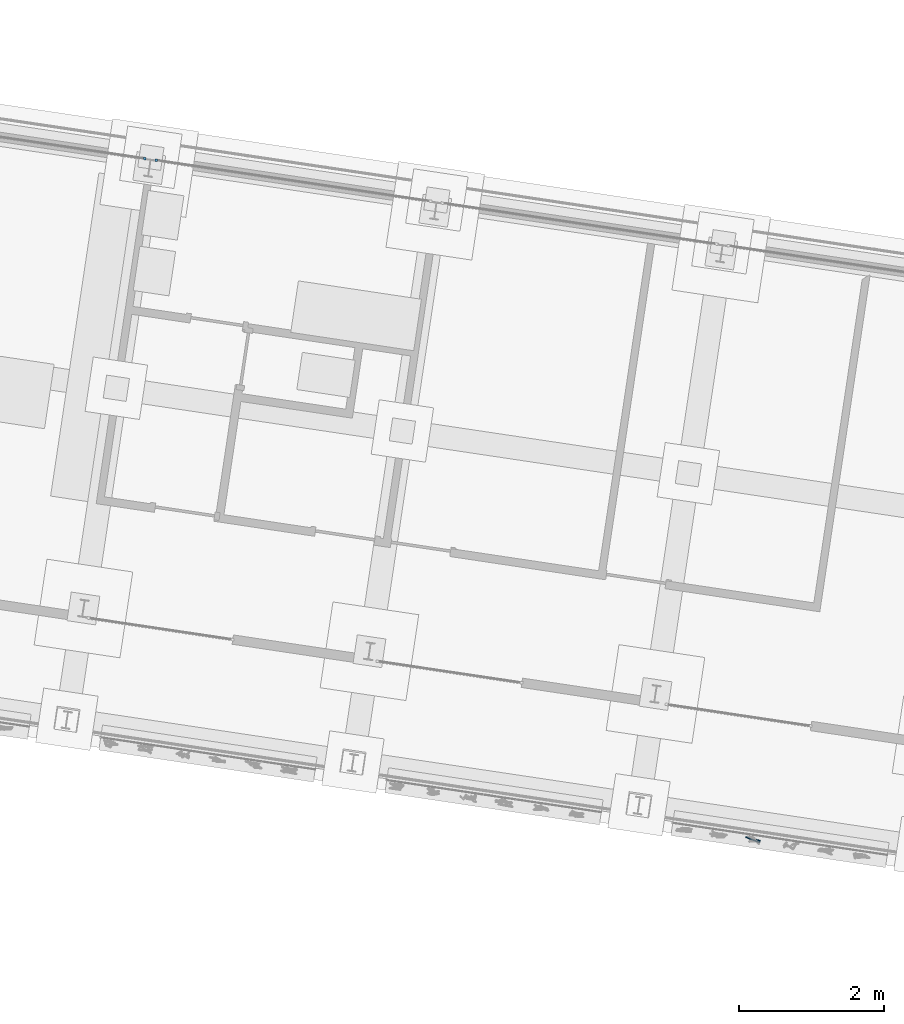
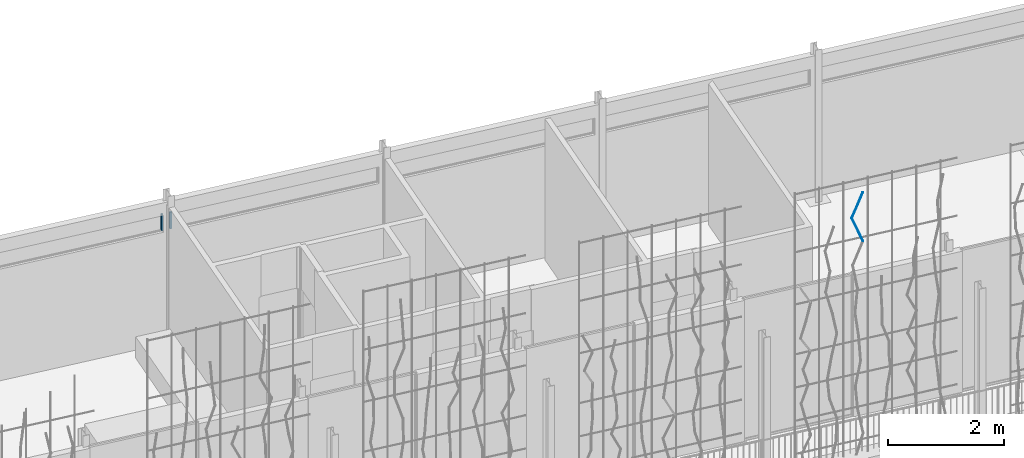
# One storey, part 121 of 142: 4 members, 1 element without a shape of its own.
"""IFC4 building model written with IfcOpenShell, lengths in metres."""

import ifcopenshell
import ifcopenshell.guid

model = None  # the IFC model being written
_history = None  # IfcOwnerHistory: only IFC2X3 demands one
_inside = {}  # id of a spatial element -> (the spatial element, [elements in it])
_under = {}  # id of a project, library or spatial element -> (it, [spatial elements below it])
_declared = {}  # id of a project -> (the project, [libraries it declares])
_typed = {}  # id of a type object -> (the type object, [elements of that type])
_made_of = {}  # id of a material, layer set ... -> (it, [elements and type objects made of it])


def new_model(schema):
    """Start an empty IFC model of exactly this schema.

    Asked for "IFC4X3", IfcOpenShell would pick the latest addendum, in which some entities
    have other attributes; the version numbers below select the first issue.
    IFC2X3 requires an IfcOwnerHistory on every rooted entity: one is made here for all.
    """
    global model, _history
    if schema == "IFC4X3":
        model = ifcopenshell.file(schema_version=(4, 3, 0, 0))
    else:
        model = ifcopenshell.file(schema=schema)
    _inside.clear()
    _under.clear()
    _declared.clear()
    _typed.clear()
    _made_of.clear()
    _history = None
    if model.schema == "IFC2X3":
        org = make("IfcOrganization", Name="unknown")
        user = make(
            "IfcPersonAndOrganization",
            ThePerson=make("IfcPerson", FamilyName="unknown"),
            TheOrganization=org,
        )
        app = make(
            "IfcApplication",
            ApplicationDeveloper=org,
            Version="unknown",
            ApplicationFullName="unknown",
            ApplicationIdentifier="unknown",
        )
        _history = make(
            "IfcOwnerHistory",
            OwningUser=user,
            OwningApplication=app,
            ChangeAction="ADDED",
            CreationDate=0,
        )
    return model


def make(cls, **values):
    """One entity of the class cls with the attributes given. An attribute that is None is left unset."""
    return model.create_entity(
        cls, **{name: value for name, value in values.items() if value is not None}
    )


def rooted(cls, **values):
    """An entity with a GlobalId (a new one), such as an element, a storey or a relation."""
    return make(cls, GlobalId=ifcopenshell.guid.new(), OwnerHistory=_history, **values)


def si_unit(unit_type, name, prefix=None):
    """IfcSIUnit, for example si_unit("LENGTHUNIT", "METRE", prefix="MILLI")."""
    return make("IfcSIUnit", UnitType=unit_type, Prefix=prefix, Name=name)


def assignment(units):
    """IfcUnitAssignment: the units of a project."""
    return None if units is None else make("IfcUnitAssignment", Units=units)


def point(xyz):
    """IfcCartesianPoint."""
    return None if xyz is None else make("IfcCartesianPoint", Coordinates=xyz)


def direction(xyz):
    """IfcDirection."""
    return None if xyz is None else make("IfcDirection", DirectionRatios=xyz)


def frame(location, z_axis=None, x_axis=None):
    """IfcAxis2Placement3D, a coordinate frame: its origin and axes. An axis left out is left unset."""
    return make(
        "IfcAxis2Placement3D",
        Location=point(location),
        Axis=direction(z_axis),
        RefDirection=direction(x_axis),
    )


def origin_with_axes():
    """The frame at (0, 0, 0) with the z axis (0, 0, 1) and the x axis (1, 0, 0) written out."""
    return frame((0.0, 0.0, 0.0), z_axis=(0.0, 0.0, 1.0), x_axis=(1.0, 0.0, 0.0))


def place(relative_to, where):
    """IfcLocalPlacement: puts the frame where relative to a parent placement (None: the world)."""
    return make(
        "IfcLocalPlacement", PlacementRelTo=relative_to, RelativePlacement=where
    )


def context(
    kind, dimensions, precision=None, world=None, true_north=None, identifier=None
):
    """IfcGeometricRepresentationContext, for example the 3D "Model" context."""
    return make(
        "IfcGeometricRepresentationContext",
        ContextIdentifier=identifier,
        ContextType=kind,
        CoordinateSpaceDimension=dimensions,
        Precision=precision,
        WorldCoordinateSystem=world,
        TrueNorth=true_north,
    )


def subcontext(parent, identifier, kind, view, scale=None):
    """IfcGeometricRepresentationSubContext, for example "Body" below "Model"."""
    return make(
        "IfcGeometricRepresentationSubContext",
        ContextIdentifier=identifier,
        ContextType=kind,
        ParentContext=parent,
        TargetScale=scale,
        TargetView=view,
    )


def project(units=None, contexts=None):
    """IfcProject with its units and contexts."""
    return rooted(
        "IfcProject",
        Name="project",
        RepresentationContexts=contexts,
        UnitsInContext=assignment(units),
    )


def spatial(cls, under=None, at=None, **own):
    """A site, building, storey or space (cls), placed at a placement, below another one or the project."""
    s = rooted(cls, ObjectPlacement=at, **own)
    if under is not None:
        _under.setdefault(under.id(), (under, []))[1].append(s)
    return s


def profile(cls, at=None, kind="AREA", **sizes):
    """A parametric profile (cls). Its sizes go by their IFC names, for example OverallWidth=200.0."""
    return make(cls, ProfileType=kind, Position=at, **sizes)


def rectangle(**sizes):
    """IfcRectangleProfileDef."""
    return profile("IfcRectangleProfileDef", **sizes)


def circle(**sizes):
    """IfcCircleProfileDef."""
    return profile("IfcCircleProfileDef", **sizes)


def extrude(swept, where, along, depth):
    """IfcExtrudedAreaSolid: the profile swept, set in the frame where, extruded along a direction by depth."""
    return make(
        "IfcExtrudedAreaSolid",
        SweptArea=swept,
        Position=where,
        ExtrudedDirection=direction(along),
        Depth=depth,
    )


def shape(context_of_items, identifier, shape_type, items):
    """IfcShapeRepresentation: the items that make up one representation, for example the "Body"."""
    return make(
        "IfcShapeRepresentation",
        ContextOfItems=context_of_items,
        RepresentationIdentifier=identifier,
        RepresentationType=shape_type,
        Items=items,
    )


def material(Name=None, Category=None):
    """IfcMaterial."""
    return make("IfcMaterial", Name=Name, Category=Category)


def material_profile(
    of_material, cross_section, Name=None, Category=None, Priority=None
):
    """IfcMaterialProfile: a cross section and its material."""
    return make(
        "IfcMaterialProfile",
        Name=Name,
        Material=of_material,
        Profile=cross_section,
        Priority=Priority,
        Category=Category,
    )


def profile_set(profiles, Name=None, composite=None):
    """IfcMaterialProfileSet."""
    return make(
        "IfcMaterialProfileSet",
        Name=Name,
        MaterialProfiles=profiles,
        CompositeProfile=composite,
    )


def profile_usage(for_profile_set, cardinal=None, extent=None):
    """IfcMaterialProfileSetUsage: how a profile set lies along its element."""
    return make(
        "IfcMaterialProfileSetUsage",
        ForProfileSet=for_profile_set,
        CardinalPoint=cardinal,
        ReferenceExtent=extent,
    )


def made_of(thing, what):
    """Note that an element or type object is made of a material, layer set ...; save() writes the relation."""
    if what is not None:
        _made_of.setdefault(what.id(), (what, []))[1].append(thing)
    return thing


def type_object(cls, material=None, **own):
    """A type object (cls), such as IfcWallType, which elements share."""
    return made_of(rooted(cls, **own), material)


def element(
    cls,
    number,
    at=None,
    inside=None,
    cuts=None,
    type_object=None,
    material=None,
    context=None,
    identifier="Body",
    shape_type=None,
    held_by="IfcProductDefinitionShape",
    body=None,
    shapes=None,
    **own,
):
    """One element of the class cls, such as IfcWall. Its Tag is "e" and its number.

    at: its placement. inside: the storey or other place that contains it. cuts: it is an
    opening in that element (IfcRelVoidsElement). A single representation is given by context,
    identifier, shape_type and body (its items); several are given by shapes. held_by: the class
    of the entity that holds the representations. save() writes the other relations.
    """
    e = rooted(cls, Tag="e%d" % number, ObjectPlacement=at, **own)
    if body is not None:
        shapes = [shape(context, identifier, shape_type, body)]
    if shapes is not None:
        e.Representation = make(held_by, Representations=shapes)
    if inside is not None:
        _inside.setdefault(inside.id(), (inside, []))[1].append(e)
    if cuts is not None:
        rooted(
            "IfcRelVoidsElement", RelatingBuildingElement=cuts, RelatedOpeningElement=e
        )
    if type_object is not None:
        _typed.setdefault(type_object.id(), (type_object, []))[1].append(e)
    return made_of(e, material)


def aggregate(whole, parts):
    """IfcRelAggregates: a whole, such as a stair, and the parts it consists of."""
    return rooted("IfcRelAggregates", RelatingObject=whole, RelatedObjects=parts)


def save(model, path):
    """Write the relations noted so far, then the file.

    IfcRelAggregates (storeys below a building ...), IfcRelContainedInSpatialStructure (elements
    in a storey), IfcRelDefinesByType, IfcRelAssociatesMaterial and IfcRelDeclares: one each for
    every whole, place, type object, material and project.
    """
    for whole, parts in _under.values():
        aggregate(whole, parts)
    for where, things in _inside.values():
        rooted(
            "IfcRelContainedInSpatialStructure",
            RelatedElements=things,
            RelatingStructure=where,
        )
    for kind, things in _typed.values():
        rooted("IfcRelDefinesByType", RelatedObjects=things, RelatingType=kind)
    for what, things in _made_of.values():
        rooted("IfcRelAssociatesMaterial", RelatedObjects=things, RelatingMaterial=what)
    for by, libraries in _declared.values():
        rooted("IfcRelDeclares", RelatingContext=by, RelatedDefinitions=libraries)
    model.write(path)


model = new_model("IFC4")

# Units and contexts
model_context = context("Model", 3, precision=1e-05, world=origin_with_axes(), true_north=direction((0.0, 1.0)))
body_context = subcontext(model_context, "Body", "Model", "MODEL_VIEW")
ifc_project = project(units=[si_unit("LENGTHUNIT", "METRE"), si_unit("AREAUNIT", "SQUARE_METRE"), si_unit("VOLUMEUNIT", "CUBIC_METRE")], contexts=[model_context])

# Site, building, storey
site_placement = place(None, origin_with_axes())
site = spatial("IfcSite", under=ifc_project, at=site_placement, Name="Lares · Rua das Mercês · artigo 4771")
building_placement = place(site_placement, frame((15.0, 9.7, 14.65), z_axis=(0.0, 0.0, 1.0), x_axis=(0.989015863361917, -0.147809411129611, 0.0)))
building = spatial("IfcBuilding", under=site, at=building_placement, Name="Casa Sobreposta")
storey_placement = place(building_placement, origin_with_axes())
storey = spatial("IfcBuildingStorey", under=building, at=storey_placement, Name="00 · Habitação e estacionamento", Elevation=14.65)

# Members
ifc_material_1 = material(Name="Aço pintado / Stahl lackiert", Category="steel")
ifc_material_profile_1 = material_profile(ifc_material_1, rectangle(XDim=0.035, YDim=0.035))
ifc_profile_set_1 = profile_set([ifc_material_profile_1], Name="R0.035")
ifc_profile_usage_1 = profile_usage(ifc_profile_set_1)
member_type_1 = type_object("IfcMemberType", Name="R0.035 / steel", PredefinedType="NOTDEFINED", material=ifc_profile_set_1)
member_1_placement = place(storey_placement, frame((7.92, 6.4, 2.35), z_axis=(0.0, 0.0, 1.0), x_axis=(1.0, 0.0, 0.0)))
element("IfcMember", 1, at=member_1_placement, inside=storey, type_object=member_type_1, material=ifc_profile_usage_1, Name="Rasgo norte 2 · montante", context=body_context, shape_type="SweptSolid", body=[
    extrude(rectangle(XDim=0.035, YDim=0.035), origin_with_axes(), (0.0, 0.0, 1.0), 0.35),
])
ifc_profile_usage_2 = profile_usage(ifc_profile_set_1)
member_2_placement = place(storey_placement, frame((8.08, 6.4, 2.35), z_axis=(0.0, 0.0, 1.0), x_axis=(1.0, 0.0, 0.0)))
element("IfcMember", 2, at=member_2_placement, inside=storey, type_object=member_type_1, material=ifc_profile_usage_2, Name="Rasgo norte 3 · montante", context=body_context, shape_type="SweptSolid", body=[
    extrude(rectangle(XDim=0.035, YDim=0.035), origin_with_axes(), (0.0, 0.0, 1.0), 0.35),
])

# Assembly, members
assembly_placement = place(storey_placement, origin_with_axes())
assembly = element("IfcElementAssembly", 3, at=assembly_placement, inside=storey, Name="Fachada sul e pátio · estrutura e trepadeiras", ObjectType="LIVING_SHADE_TRELLIS", PredefinedType="USERDEFINED")
ifc_material_2 = material(Name="Ramos de trepadeiras", Category="wood")
ifc_material_profile_2 = material_profile(ifc_material_2, circle(Radius=0.0075))
ifc_profile_set_2 = profile_set([ifc_material_profile_2], Name="D0.015")
ifc_profile_usage_3 = profile_usage(ifc_profile_set_2)
member_type_2 = type_object("IfcMemberType", Name="D0.015 / vine_wood", PredefinedType="NOTDEFINED", material=ifc_profile_set_2)
member_3_placement = place(assembly_placement, frame((17.7255981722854, -1.69672146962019, 4.88222430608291), z_axis=(-0.353324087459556, 0.0784717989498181, 0.932203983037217), x_axis=(0.216812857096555, 0.976213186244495, 0.0)))
member_3 = element("IfcMember", 4, at=member_3_placement, type_object=member_type_2, material=ifc_profile_usage_3, Name="Trepadeiras · ramo", context=body_context, shape_type="SweptSolid", body=[
    extrude(circle(Radius=0.0075), origin_with_axes(), (0.0, 0.0, 1.0), 0.540204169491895),
])
ifc_profile_usage_4 = profile_usage(ifc_profile_set_2)
member_4_placement = place(assembly_placement, frame((17.5347310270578, -1.65433067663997, 5.38580478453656), z_axis=(0.357502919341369, -0.0392603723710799, 0.93308642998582), x_axis=(-0.109162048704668, -0.994023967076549, 0.0)))
member_4 = element("IfcMember", 5, at=member_4_placement, type_object=member_type_2, material=ifc_profile_usage_4, Name="Trepadeiras · ramo", context=body_context, shape_type="SweptSolid", body=[
    extrude(circle(Radius=0.0075), origin_with_axes(), (0.0, 0.0, 1.0), 0.539693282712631),
])
aggregate(assembly, [member_3, member_4])

save(model, "model.ifc")
